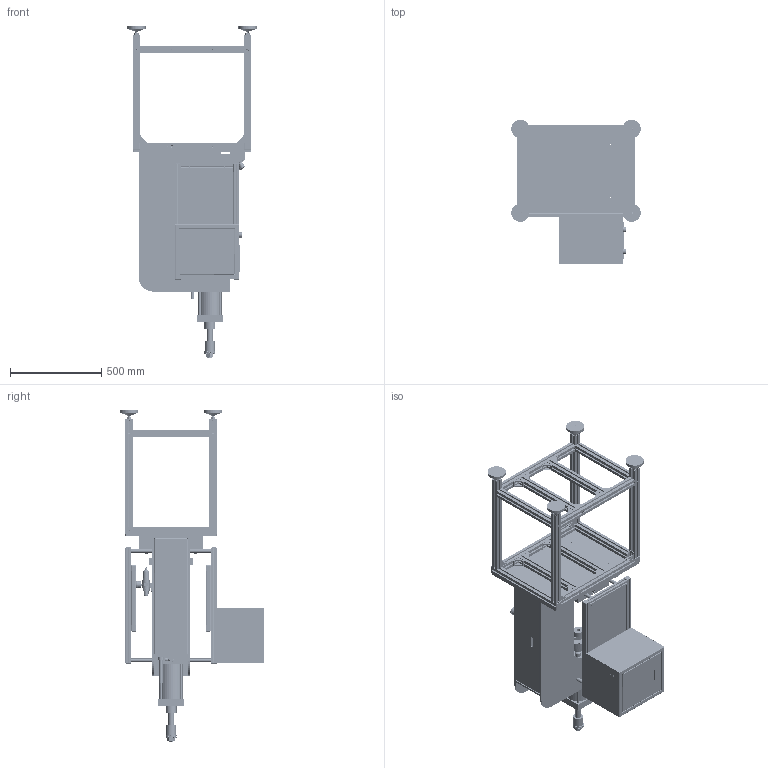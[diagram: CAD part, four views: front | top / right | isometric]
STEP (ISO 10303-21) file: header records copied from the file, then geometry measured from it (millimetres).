
FILE_DESCRIPTION((''),'2;1');
FILE_NAME('ZHENJI_ASM','2026-06-04T10:06:14',('zxb27'),(''),'CREO PARAMETRIC BY PTC INC, 2022164','CREO PARAMETRIC BY PTC INC, 2022164','');
FILE_SCHEMA(('AUTOMOTIVE_DESIGN { 1 0 10303 214 1 1 1 1 }'));
Products named in the file (1): ZHENJI_ASM
Bounding box: 710 x 790 x 1821 mm (x, y, z)
Surface area: 10529069.4 mm2 (no closed solid volume)
Topology: 0 solids, 181 shells, 16129 faces, 40955 edges, 24665 vertices
Faces by surface type: plane 6188, bspline 5235, cylinder 4095, cone 418, torus 100, sphere 52, extrusion 41
Entity records: 925477 total; most frequent: CARTESIAN_POINT 486805, ORIENTED_EDGE 80878, DIRECTION 52787, EDGE_CURVE 40860, VERTEX_POINT 24665, VECTOR 19167, LINE 19126, PRESENTATION_STYLE_ASSIGNMENT 17116
